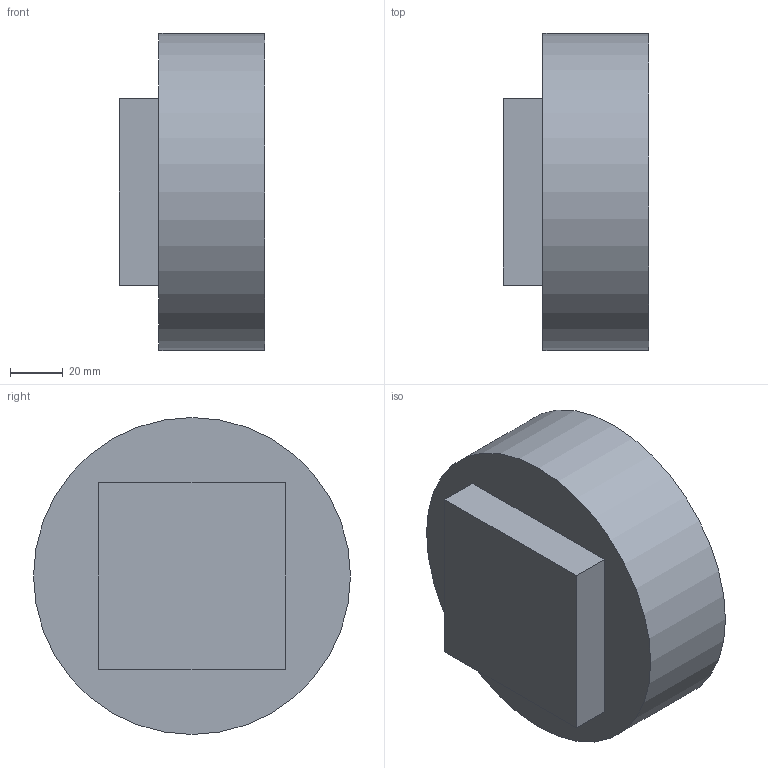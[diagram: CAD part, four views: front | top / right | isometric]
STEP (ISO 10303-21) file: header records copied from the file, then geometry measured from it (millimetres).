
FILE_DESCRIPTION( ( '' ), ' ' );
FILE_NAME( '/vol/tmp/translate-17889320890396614611/5d4c576c6669931681f0ca76.step', '2019-08-08T17:10:05', ( '' ), ( '' ), ' ', ' ', ' ' );
FILE_SCHEMA( ( 'AUTOMOTIVE_DESIGN { 1 0 10303 214 1 1 1 1 }' ) );
Length unit declared in the file: metre
Products named in the file (1): Part 1
Bounding box: 55 x 120 x 120 mm (x, y, z)
Volume: 527094.1 mm3; surface area: 41933.4 mm2
Topology: 1 solids, 1 shells, 8 faces, 15 edges, 10 vertices
Faces by surface type: plane 7, cylinder 1
Full cylindrical faces by diameter (mm): 120 x1
Entity records: 276 total; most frequent: DIRECTION 34, CARTESIAN_POINT 33, ORIENTED_EDGE 28, EDGE_CURVE 14, LINE 12, VECTOR 12, AXIS2_PLACEMENT_3D 11, EDGE_LOOP 10
